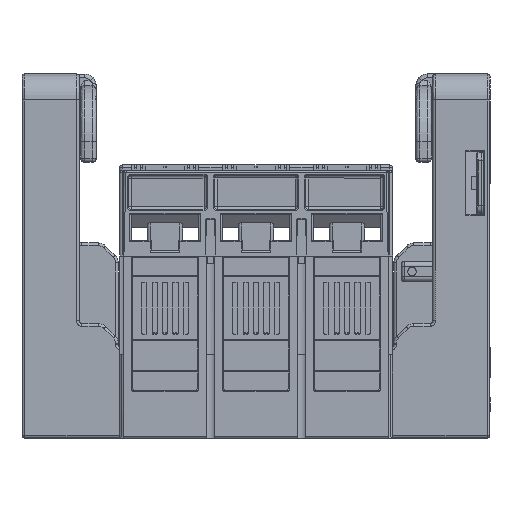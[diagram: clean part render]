
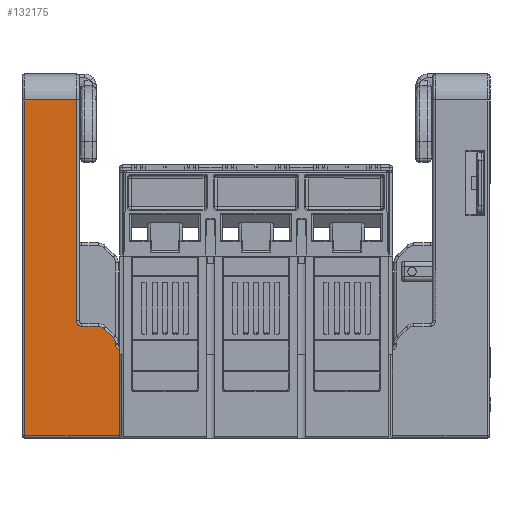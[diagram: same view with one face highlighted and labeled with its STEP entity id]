
A CAD part, front view. The second image highlights one B-rep face of the part: STEP entity #132175.
In plain terms, the highlighted planar face has unit normal (0, -1, 0).
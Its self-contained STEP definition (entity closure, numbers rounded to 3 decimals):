
#9220 = PLANE ( 'NONE',  #15454 ) ;
#9285 = FACE_OUTER_BOUND ( 'NONE', #190109, .T. ) ;
#9338 = CARTESIAN_POINT ( 'NONE',  ( -105.794, -77.183, 77.501 ) ) ;
#9339 = DIRECTION ( 'NONE',  ( 0., 1., 0. ) ) ;
#9341 = DIRECTION ( 'NONE',  ( 0., 0., 1. ) ) ;
#15454 = AXIS2_PLACEMENT_3D ( 'NONE', #9338, #9339, #9341 ) ;
#29572 = VECTOR ( 'NONE', #267937, 1000. ) ;
#55619 = CARTESIAN_POINT ( 'NONE',  ( -91.794, -77.183, -16.156 ) ) ;
#55673 = CARTESIAN_POINT ( 'NONE',  ( -106.794, -77.183, 77.501 ) ) ;
#73129 = VECTOR ( 'NONE', #195669, 1000. ) ;
#78734 = VECTOR ( 'NONE', #222735, 1000. ) ;
#82397 = EDGE_CURVE ( 'NONE', #204026, #204055, #173346, .T. ) ;
#82398 = EDGE_CURVE ( 'NONE', #204055, #178718, #173428, .T. ) ;
#82400 = EDGE_CURVE ( 'NONE', #178718, #204047, #173445, .T. ) ;
#82402 = EDGE_CURVE ( 'NONE', #204047, #204029, #88228, .T. ) ;
#82404 = EDGE_CURVE ( 'NONE', #204029, #204039, #173490, .T. ) ;
#82406 = EDGE_CURVE ( 'NONE', #204039, #204025, #88225, .T. ) ;
#82408 = EDGE_CURVE ( 'NONE', #204025, #204028, #173533, .T. ) ;
#82409 = EDGE_CURVE ( 'NONE', #204028, #178679, #88219, .T. ) ;
#82411 = EDGE_CURVE ( 'NONE', #178442, #204024, #88214, .T. ) ;
#88214 =( BOUNDED_CURVE ( )  B_SPLINE_CURVE ( 3, ( #173553, #173576, #173579, #173581 ),
 .UNSPECIFIED., .F., .T. ) 
 B_SPLINE_CURVE_WITH_KNOTS ( ( 4, 4 ),
 ( 0., 1. ),
 .UNSPECIFIED. ) 
 CURVE ( )  GEOMETRIC_REPRESENTATION_ITEM ( )  RATIONAL_B_SPLINE_CURVE ( ( 1., 0.86, 0.86, 1. ) ) 
 REPRESENTATION_ITEM ( '' )  );
#88219 =( BOUNDED_CURVE ( )  B_SPLINE_CURVE ( 3, ( #173531, #173529, #173549, #173551 ),
 .UNSPECIFIED., .F., .T. ) 
 B_SPLINE_CURVE_WITH_KNOTS ( ( 4, 4 ),
 ( 0., 1. ),
 .UNSPECIFIED. ) 
 CURVE ( )  GEOMETRIC_REPRESENTATION_ITEM ( )  RATIONAL_B_SPLINE_CURVE ( ( 1., 0.949, 0.949, 1. ) ) 
 REPRESENTATION_ITEM ( '' )  );
#88225 =( BOUNDED_CURVE ( )  B_SPLINE_CURVE ( 3, ( #173509, #173507, #173522, #173524 ),
 .UNSPECIFIED., .F., .T. ) 
 B_SPLINE_CURVE_WITH_KNOTS ( ( 4, 4 ),
 ( 0., 1. ),
 .UNSPECIFIED. ) 
 CURVE ( )  GEOMETRIC_REPRESENTATION_ITEM ( )  RATIONAL_B_SPLINE_CURVE ( ( 1., 0.949, 0.949, 1. ) ) 
 REPRESENTATION_ITEM ( '' )  );
#88228 =( BOUNDED_CURVE ( )  B_SPLINE_CURVE ( 3, ( #173464, #173462, #173477, #173479 ),
 .UNSPECIFIED., .F., .T. ) 
 B_SPLINE_CURVE_WITH_KNOTS ( ( 4, 4 ),
 ( 0., 1. ),
 .UNSPECIFIED. ) 
 CURVE ( )  GEOMETRIC_REPRESENTATION_ITEM ( )  RATIONAL_B_SPLINE_CURVE ( ( 1., 0.805, 0.805, 1. ) ) 
 REPRESENTATION_ITEM ( '' )  );
#109964 = EDGE_CURVE ( 'NONE', #178679, #178442, #222722, .T. ) ;
#132175 = ADVANCED_FACE ( 'NONE', ( #9285 ), #9220, .F. ) ;
#159015 = EDGE_CURVE ( 'NONE', #204024, #204473, #195634, .T. ) ;
#159750 = EDGE_CURVE ( 'NONE', #204473, #204026, #267794, .T. ) ;
#173319 = CARTESIAN_POINT ( 'NONE',  ( -126.794, -77.183, 77.501 ) ) ;
#173346 = LINE ( 'NONE', #173319, #259525 ) ;
#173409 = CARTESIAN_POINT ( 'NONE',  ( -106.794, -77.183, 77.501 ) ) ;
#173425 = DIRECTION ( 'NONE',  ( 0., 0., 1. ) ) ;
#173428 = LINE ( 'NONE', #173434, #259444 ) ;
#173434 = CARTESIAN_POINT ( 'NONE',  ( -105.794, -77.183, 77.501 ) ) ;
#173436 = DIRECTION ( 'NONE',  ( 1., 0., 0. ) ) ;
#173445 = LINE ( 'NONE', #173409, #258984 ) ;
#173458 = DIRECTION ( 'NONE',  ( 0., 0., -1. ) ) ;
#173462 = CARTESIAN_POINT ( 'NONE',  ( -106.794, -77.183, -8.671 ) ) ;
#173464 = CARTESIAN_POINT ( 'NONE',  ( -106.794, -77.183, -7.499 ) ) ;
#173467 = CARTESIAN_POINT ( 'NONE',  ( -105.794, -77.183, -9.499 ) ) ;
#173477 = CARTESIAN_POINT ( 'NONE',  ( -105.966, -77.183, -9.499 ) ) ;
#173479 = CARTESIAN_POINT ( 'NONE',  ( -104.794, -77.183, -9.499 ) ) ;
#173490 = LINE ( 'NONE', #173467, #259523 ) ;
#173503 = DIRECTION ( 'NONE',  ( 1., 0., 0. ) ) ;
#173507 = CARTESIAN_POINT ( 'NONE',  ( -97.645, -77.183, -9.499 ) ) ;
#173509 = CARTESIAN_POINT ( 'NONE',  ( -98.451, -77.183, -9.499 ) ) ;
#173511 = CARTESIAN_POINT ( 'NONE',  ( -96.33, -77.183, -10.378 ) ) ;
#173522 = CARTESIAN_POINT ( 'NONE',  ( -96.9, -77.183, -9.808 ) ) ;
#173524 = CARTESIAN_POINT ( 'NONE',  ( -96.33, -77.183, -10.378 ) ) ;
#173529 = CARTESIAN_POINT ( 'NONE',  ( -92.103, -77.183, -14.605 ) ) ;
#173531 = CARTESIAN_POINT ( 'NONE',  ( -92.673, -77.183, -14.035 ) ) ;
#173533 = LINE ( 'NONE', #173511, #259199 ) ;
#173542 = DIRECTION ( 'NONE',  ( 0.707, 0., -0.707 ) ) ;
#173549 = CARTESIAN_POINT ( 'NONE',  ( -91.794, -77.183, -15.35 ) ) ;
#173551 = CARTESIAN_POINT ( 'NONE',  ( -91.794, -77.183, -16.156 ) ) ;
#173553 = CARTESIAN_POINT ( 'NONE',  ( -91.794, -77.183, -16.633 ) ) ;
#173576 = CARTESIAN_POINT ( 'NONE',  ( -91.794, -77.183, -17.582 ) ) ;
#173579 = CARTESIAN_POINT ( 'NONE',  ( -91.213, -77.183, -18.333 ) ) ;
#173581 = CARTESIAN_POINT ( 'NONE',  ( -90.294, -77.183, -18.57 ) ) ;
#178442 = VERTEX_POINT ( 'NONE', #246799 ) ;
#178679 = VERTEX_POINT ( 'NONE', #55619 ) ;
#178718 = VERTEX_POINT ( 'NONE', #55673 ) ;
#179658 = ORIENTED_EDGE ( 'NONE', *, *, #82409, .F. ) ;
#179661 = ORIENTED_EDGE ( 'NONE', *, *, #82408, .F. ) ;
#179664 = ORIENTED_EDGE ( 'NONE', *, *, #82406, .F. ) ;
#179667 = ORIENTED_EDGE ( 'NONE', *, *, #82404, .F. ) ;
#179670 = ORIENTED_EDGE ( 'NONE', *, *, #82402, .F. ) ;
#179673 = ORIENTED_EDGE ( 'NONE', *, *, #82400, .F. ) ;
#179676 = ORIENTED_EDGE ( 'NONE', *, *, #82398, .F. ) ;
#179679 = ORIENTED_EDGE ( 'NONE', *, *, #82397, .F. ) ;
#179682 = ORIENTED_EDGE ( 'NONE', *, *, #159750, .F. ) ;
#179685 = ORIENTED_EDGE ( 'NONE', *, *, #159015, .F. ) ;
#179688 = ORIENTED_EDGE ( 'NONE', *, *, #82411, .F. ) ;
#179691 = ORIENTED_EDGE ( 'NONE', *, *, #109964, .F. ) ;
#190109 = EDGE_LOOP ( 'NONE', ( #179658, #179661, #179664, #179667, #179670, #179673, #179676, #179679, #179682, #179685, #179688, #179691 ) ) ;
#195634 = LINE ( 'NONE', #195664, #73129 ) ;
#195664 = CARTESIAN_POINT ( 'NONE',  ( -90.294, -77.183, 17.501 ) ) ;
#195669 = DIRECTION ( 'NONE',  ( 0., 0., -1. ) ) ;
#204024 = VERTEX_POINT ( 'NONE', #230312 ) ;
#204025 = VERTEX_POINT ( 'NONE', #230315 ) ;
#204026 = VERTEX_POINT ( 'NONE', #230319 ) ;
#204028 = VERTEX_POINT ( 'NONE', #230323 ) ;
#204029 = VERTEX_POINT ( 'NONE', #230326 ) ;
#204039 = VERTEX_POINT ( 'NONE', #230350 ) ;
#204047 = VERTEX_POINT ( 'NONE', #230379 ) ;
#204055 = VERTEX_POINT ( 'NONE', #230382 ) ;
#204473 = VERTEX_POINT ( 'NONE', #231234 ) ;
#222722 = LINE ( 'NONE', #222723, #78734 ) ;
#222723 = CARTESIAN_POINT ( 'NONE',  ( -91.794, -77.183, 77.501 ) ) ;
#222735 = DIRECTION ( 'NONE',  ( 0., 0., -1. ) ) ;
#230312 = CARTESIAN_POINT ( 'NONE',  ( -90.294, -77.183, -18.57 ) ) ;
#230315 = CARTESIAN_POINT ( 'NONE',  ( -96.33, -77.183, -10.378 ) ) ;
#230319 = CARTESIAN_POINT ( 'NONE',  ( -126.794, -77.183, -51.499 ) ) ;
#230323 = CARTESIAN_POINT ( 'NONE',  ( -92.673, -77.183, -14.035 ) ) ;
#230326 = CARTESIAN_POINT ( 'NONE',  ( -104.794, -77.183, -9.499 ) ) ;
#230350 = CARTESIAN_POINT ( 'NONE',  ( -98.451, -77.183, -9.499 ) ) ;
#230379 = CARTESIAN_POINT ( 'NONE',  ( -106.794, -77.183, -7.499 ) ) ;
#230382 = CARTESIAN_POINT ( 'NONE',  ( -126.794, -77.183, 77.501 ) ) ;
#231234 = CARTESIAN_POINT ( 'NONE',  ( -90.294, -77.183, -51.499 ) ) ;
#246799 = CARTESIAN_POINT ( 'NONE',  ( -91.794, -77.183, -16.633 ) ) ;
#258984 = VECTOR ( 'NONE', #173458, 1000. ) ;
#259199 = VECTOR ( 'NONE', #173542, 1000. ) ;
#259444 = VECTOR ( 'NONE', #173436, 1000. ) ;
#259523 = VECTOR ( 'NONE', #173503, 1000. ) ;
#259525 = VECTOR ( 'NONE', #173425, 1000. ) ;
#267794 = LINE ( 'NONE', #267865, #29572 ) ;
#267865 = CARTESIAN_POINT ( 'NONE',  ( -105.794, -77.183, -51.499 ) ) ;
#267937 = DIRECTION ( 'NONE',  ( -1., 0., 0. ) ) ;
